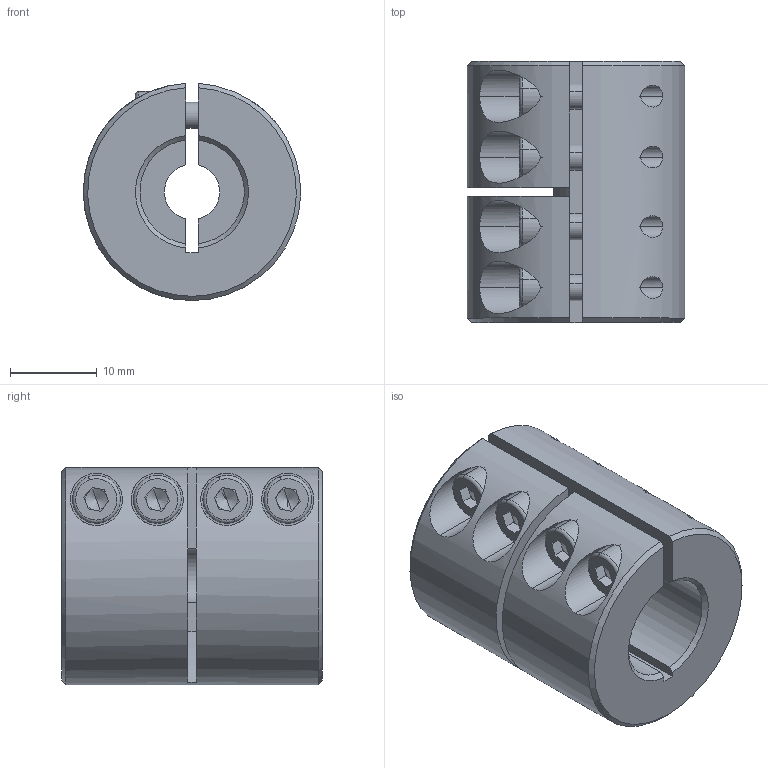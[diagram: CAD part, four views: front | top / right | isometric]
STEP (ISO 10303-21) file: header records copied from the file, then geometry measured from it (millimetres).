
FILE_DESCRIPTION (( 'STEP AP214' ), '1' );
FILE_NAME ('LL-B-D25L30-6.35-12½¨Ä£.STEP', '2022-07-21T03:14:55', ( '' ), ( '' ), 'SwSTEP 2.0', 'SolidWorks 2022', '' );
FILE_SCHEMA (( 'AUTOMOTIVE_DESIGN' ));
Length unit declared in the file: millimetre
Products named in the file (1): LL-B-D25L30-6.35-12膘耀
Bounding box: 24.99 x 30 x 24.98 mm (x, y, z)
Volume: 11496 mm3; surface area: 5919.8 mm2
Topology: 1 solids, 1 shells, 164 faces, 418 edges, 264 vertices
Faces by surface type: plane 83, cylinder 58, cone 15, torus 8
Entity records: 5402 total; most frequent: CARTESIAN_POINT 1363, DIRECTION 862, ORIENTED_EDGE 820, EDGE_CURVE 410, AXIS2_PLACEMENT_3D 331, VERTEX_POINT 264, VECTOR 200, LINE 200
